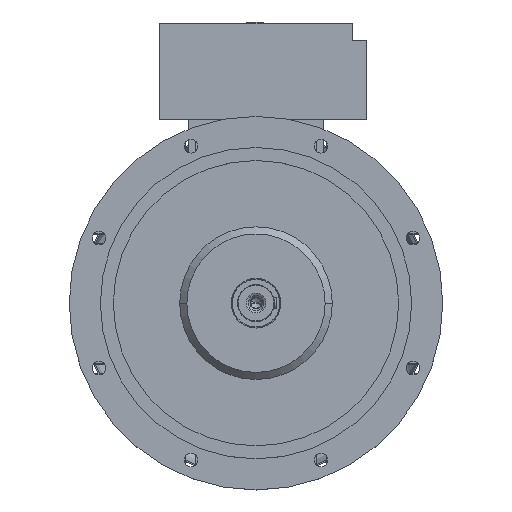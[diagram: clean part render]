
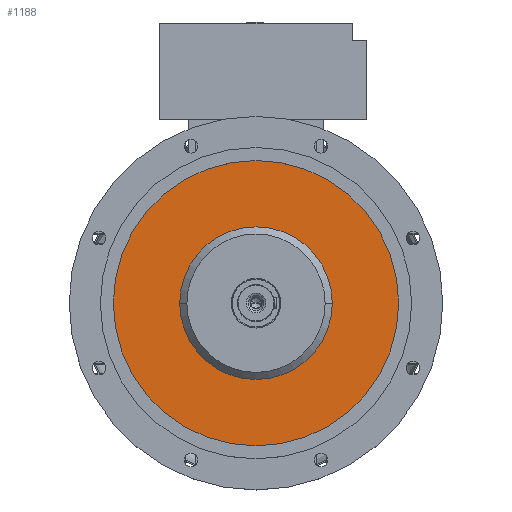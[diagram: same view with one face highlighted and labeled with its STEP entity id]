
A CAD part, top view. The second image highlights one B-rep face of the part: STEP entity #1188.
In plain terms, the highlighted planar face has unit normal (0, 0, 1).
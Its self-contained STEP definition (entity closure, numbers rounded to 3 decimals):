
#546 = CIRCLE ( 'NONE', #14573, 252.083 ) ;
#990 = EDGE_LOOP ( 'NONE', ( #19331, #5581 ) ) ;
#1052 = CARTESIAN_POINT ( 'NONE',  ( 0., 0., 455.4 ) ) ;
#1136 = DIRECTION ( 'NONE',  ( 0., 0., 1. ) ) ;
#1188 = ADVANCED_FACE ( 'NONE', ( #7945, #4622 ), #4764, .T. ) ;
#2177 = CARTESIAN_POINT ( 'NONE',  ( 252.083, 0., 455.4 ) ) ;
#2534 = EDGE_CURVE ( 'NONE', #11102, #7676, #11209, .T. ) ;
#3657 = CARTESIAN_POINT ( 'NONE',  ( 0., 0., 455.4 ) ) ;
#3746 = EDGE_CURVE ( 'NONE', #14148, #13092, #20453, .T. ) ;
#4622 = FACE_BOUND ( 'NONE', #990, .T. ) ;
#4764 = PLANE ( 'NONE',  #17886 ) ;
#5581 = ORIENTED_EDGE ( 'NONE', *, *, #13795, .T. ) ;
#6604 = AXIS2_PLACEMENT_3D ( 'NONE', #3657, #24858, #20872 ) ;
#7196 = CARTESIAN_POINT ( 'NONE',  ( -134.8, 0., 455.4 ) ) ;
#7676 = VERTEX_POINT ( 'NONE', #10417 ) ;
#7945 = FACE_OUTER_BOUND ( 'NONE', #24048, .T. ) ;
#8814 = DIRECTION ( 'NONE',  ( -1., 0., 0. ) ) ;
#10101 = CIRCLE ( 'NONE', #18475, 134.8 ) ;
#10403 = DIRECTION ( 'NONE',  ( 0., 0., 1. ) ) ;
#10417 = CARTESIAN_POINT ( 'NONE',  ( 134.8, 0., 455.4 ) ) ;
#10645 = DIRECTION ( 'NONE',  ( -1., 0., 0. ) ) ;
#10893 = ORIENTED_EDGE ( 'NONE', *, *, #3746, .T. ) ;
#11102 = VERTEX_POINT ( 'NONE', #7196 ) ;
#11209 = CIRCLE ( 'NONE', #6604, 134.8 ) ;
#11946 = ORIENTED_EDGE ( 'NONE', *, *, #17828, .T. ) ;
#12541 = CARTESIAN_POINT ( 'NONE',  ( 0., 252.083, 455.4 ) ) ;
#12855 = DIRECTION ( 'NONE',  ( -1., 0., 0. ) ) ;
#13092 = VERTEX_POINT ( 'NONE', #18337 ) ;
#13795 = EDGE_CURVE ( 'NONE', #7676, #11102, #10101, .T. ) ;
#14148 = VERTEX_POINT ( 'NONE', #2177 ) ;
#14427 = AXIS2_PLACEMENT_3D ( 'NONE', #1052, #18417, #8814 ) ;
#14573 = AXIS2_PLACEMENT_3D ( 'NONE', #19986, #10403, #10645 ) ;
#17828 = EDGE_CURVE ( 'NONE', #13092, #14148, #546, .T. ) ;
#17886 = AXIS2_PLACEMENT_3D ( 'NONE', #12541, #1136, #18231 ) ;
#18231 = DIRECTION ( 'NONE',  ( 1., 0., 0. ) ) ;
#18337 = CARTESIAN_POINT ( 'NONE',  ( -252.083, 0., 455.4 ) ) ;
#18417 = DIRECTION ( 'NONE',  ( 0., 0., 1. ) ) ;
#18475 = AXIS2_PLACEMENT_3D ( 'NONE', #20409, #22353, #12855 ) ;
#19331 = ORIENTED_EDGE ( 'NONE', *, *, #2534, .T. ) ;
#19986 = CARTESIAN_POINT ( 'NONE',  ( 0., 0., 455.4 ) ) ;
#20409 = CARTESIAN_POINT ( 'NONE',  ( 0., 0., 455.4 ) ) ;
#20453 = CIRCLE ( 'NONE', #14427, 252.083 ) ;
#20872 = DIRECTION ( 'NONE',  ( -1., 0., 0. ) ) ;
#22353 = DIRECTION ( 'NONE',  ( 0., 0., -1. ) ) ;
#24048 = EDGE_LOOP ( 'NONE', ( #11946, #10893 ) ) ;
#24858 = DIRECTION ( 'NONE',  ( 0., 0., -1. ) ) ;
